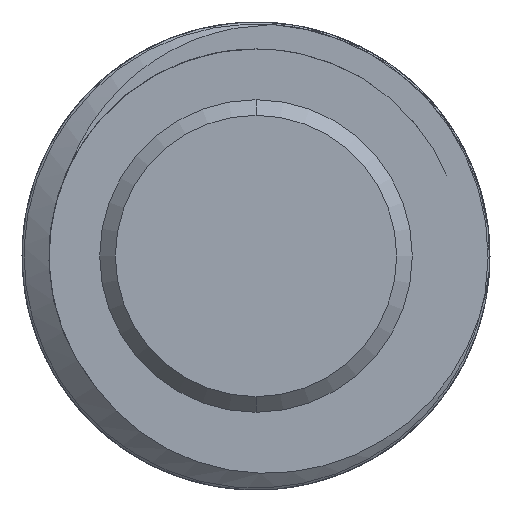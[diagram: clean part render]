
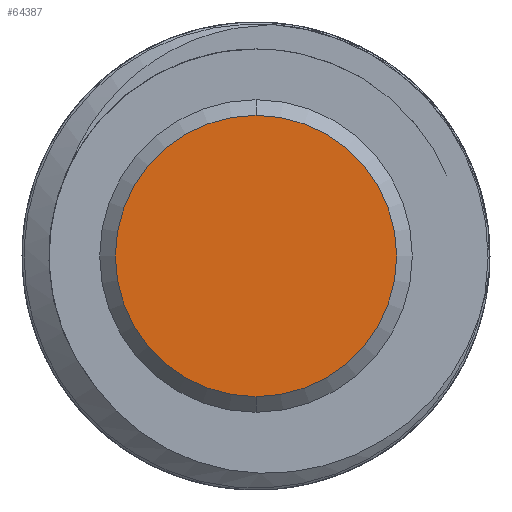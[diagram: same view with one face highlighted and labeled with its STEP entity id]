
A CAD part, left-side view. The second image highlights one B-rep face of the part: STEP entity #64387.
In plain terms, the highlighted planar face has unit normal (-1, 0, 0).
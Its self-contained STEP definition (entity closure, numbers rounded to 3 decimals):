
#132 = CARTESIAN_POINT ( 'NONE',  ( -157.5, 0., 0. ) ) ;
#6455 = PLANE ( 'NONE',  #68697 ) ;
#6778 = DIRECTION ( 'NONE',  ( -1., 0., 0. ) ) ;
#21452 = CARTESIAN_POINT ( 'NONE',  ( -157.5, 0., 0. ) ) ;
#21851 = FACE_OUTER_BOUND ( 'NONE', #77861, .T. ) ;
#25082 = AXIS2_PLACEMENT_3D ( 'NONE', #21452, #80726, #35770 ) ;
#28794 = DIRECTION ( 'NONE',  ( 0., 0., 1. ) ) ;
#35770 = DIRECTION ( 'NONE',  ( 0., 0., 1. ) ) ;
#37054 = DIRECTION ( 'NONE',  ( 0., 0., 1. ) ) ;
#44543 = CARTESIAN_POINT ( 'NONE',  ( -157.5, 10., 0. ) ) ;
#47806 = VERTEX_POINT ( 'NONE', #80450 ) ;
#51916 = CIRCLE ( 'NONE', #72493, 9. ) ;
#64387 = ADVANCED_FACE ( 'NONE', ( #21851 ), #6455, .T. ) ;
#64532 = EDGE_CURVE ( 'NONE', #47806, #67847, #89457, .T. ) ;
#66979 = ORIENTED_EDGE ( 'NONE', *, *, #64532, .T. ) ;
#67847 = VERTEX_POINT ( 'NONE', #74196 ) ;
#68644 = ORIENTED_EDGE ( 'NONE', *, *, #78282, .T. ) ;
#68697 = AXIS2_PLACEMENT_3D ( 'NONE', #44543, #6778, #37054 ) ;
#72493 = AXIS2_PLACEMENT_3D ( 'NONE', #132, #80573, #28794 ) ;
#74196 = CARTESIAN_POINT ( 'NONE',  ( -157.5, 0., -9. ) ) ;
#77861 = EDGE_LOOP ( 'NONE', ( #68644, #66979 ) ) ;
#78282 = EDGE_CURVE ( 'NONE', #67847, #47806, #51916, .T. ) ;
#80450 = CARTESIAN_POINT ( 'NONE',  ( -157.5, 0., 9. ) ) ;
#80573 = DIRECTION ( 'NONE',  ( -1., 0., 0. ) ) ;
#80726 = DIRECTION ( 'NONE',  ( -1., 0., 0. ) ) ;
#89457 = CIRCLE ( 'NONE', #25082, 9. ) ;
